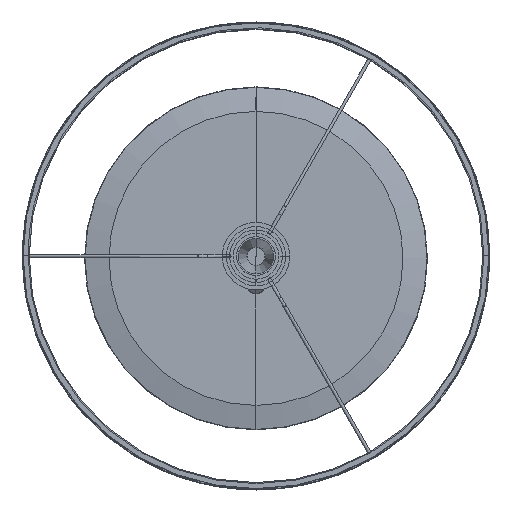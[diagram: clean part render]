
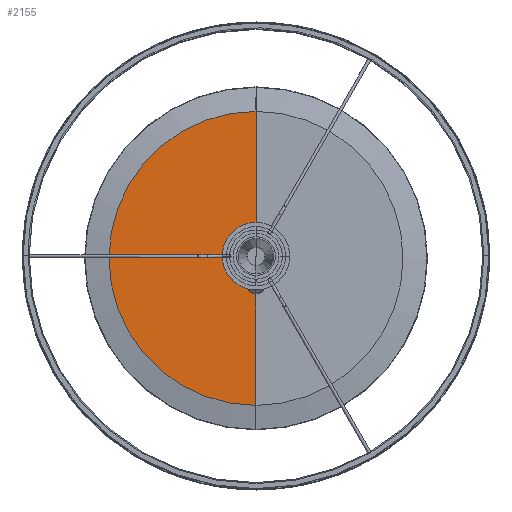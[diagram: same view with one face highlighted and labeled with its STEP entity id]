
A CAD part, top view. The second image highlights one B-rep face of the part: STEP entity #2155.
In plain terms, the highlighted planar face has unit normal (0, 0, 1).
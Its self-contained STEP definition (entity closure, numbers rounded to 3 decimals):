
#302=FACE_OUTER_BOUND('',#457,.T.);
#457=EDGE_LOOP('',(#1657,#1658,#1659,#1660));
#595=LINE('',#4004,#713);
#596=LINE('',#4005,#714);
#713=VECTOR('',#2842,304.8);
#714=VECTOR('',#2843,304.8);
#834=CIRCLE('',#2374,10.077);
#836=CIRCLE('',#2378,141.508);
#966=VERTEX_POINT('',#3990);
#967=VERTEX_POINT('',#3991);
#968=VERTEX_POINT('',#4001);
#969=VERTEX_POINT('',#4002);
#1202=EDGE_CURVE('',#967,#966,#834,.T.);
#1204=EDGE_CURVE('',#966,#968,#595,.T.);
#1205=EDGE_CURVE('',#969,#967,#596,.T.);
#1206=EDGE_CURVE('',#969,#968,#836,.T.);
#1657=ORIENTED_EDGE('',*,*,#1206,.F.);
#1658=ORIENTED_EDGE('',*,*,#1205,.T.);
#1659=ORIENTED_EDGE('',*,*,#1202,.T.);
#1660=ORIENTED_EDGE('',*,*,#1204,.T.);
#2056=PLANE('',#2377);
#2155=ADVANCED_FACE('',(#302),#2056,.T.);
#2374=AXIS2_PLACEMENT_3D('',#3999,#2836,#2837);
#2377=AXIS2_PLACEMENT_3D('',#4006,#2844,#2845);
#2378=AXIS2_PLACEMENT_3D('',#4007,#2846,#2847);
#2836=DIRECTION('center_axis',(0.,0.,-1.));
#2837=DIRECTION('ref_axis',(0.,1.,0.));
#2842=DIRECTION('',(0.,1.,0.));
#2843=DIRECTION('',(0.,1.,0.));
#2844=DIRECTION('center_axis',(0.,0.,1.));
#2845=DIRECTION('ref_axis',(0.,1.,0.));
#2846=DIRECTION('center_axis',(0.,0.,-1.));
#2847=DIRECTION('ref_axis',(-0.588,0.809,0.));
#3990=CARTESIAN_POINT('',(0.,10.077,6.218));
#3991=CARTESIAN_POINT('',(0.,-10.077,6.218));
#3999=CARTESIAN_POINT('Origin',(0.,0.,6.218));
#4001=CARTESIAN_POINT('',(0.,141.508,6.218));
#4002=CARTESIAN_POINT('',(0.,-141.508,6.218));
#4004=CARTESIAN_POINT('',(0.,10.077,6.218));
#4005=CARTESIAN_POINT('',(0.,-141.508,6.218));
#4006=CARTESIAN_POINT('Origin',(0.,0.,6.218));
#4007=CARTESIAN_POINT('Origin',(0.,0.,
6.218));
